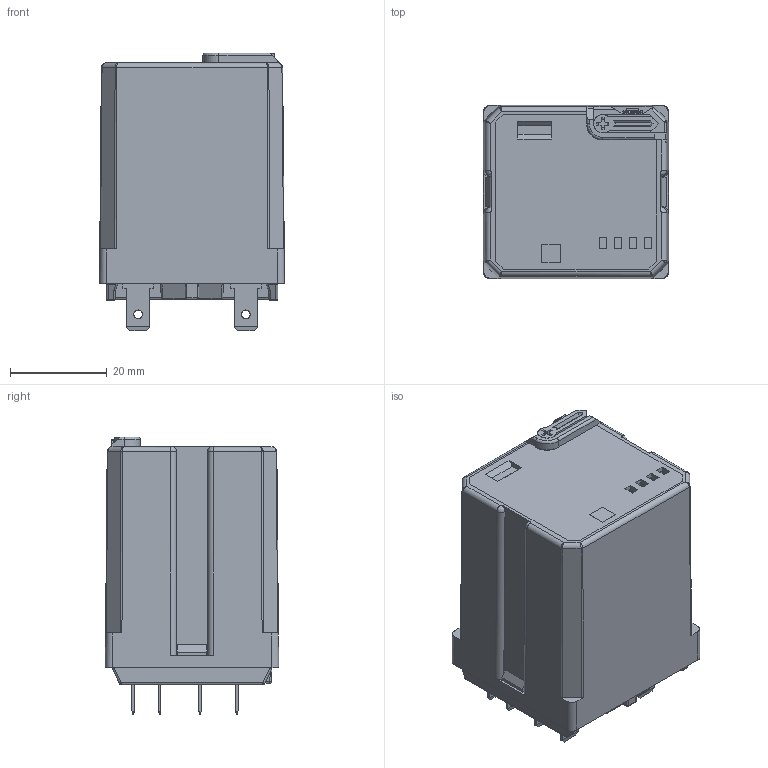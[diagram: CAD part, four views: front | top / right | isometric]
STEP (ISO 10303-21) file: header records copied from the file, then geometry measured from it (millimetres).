
FILE_DESCRIPTION(('STEP AP214'),'2;1');
FILE_NAME('6232.stp','2011-09-07T15:17:16',(''),(''),'2007.1.106','THINKDESIGN','');
FILE_SCHEMA(('AUTOMOTIVE_DESIGN'));
Length unit declared in the file: millimetre
Products named in the file (1): None
Bounding box: 38.2 x 35.8 x 57.3 mm (x, y, z)
Surface area: 11810.4 mm2 (no closed solid volume)
Topology: 0 solids, 0 shells, 540 faces, 3038 edges, 2995 vertices
Faces by surface type: plane 338, cylinder 121, bspline 81
Full cylindrical faces by diameter (mm): 1.8 x8, 2.8 x1, 5 x1
Entity records: 33657 total; most frequent: CARTESIAN_POINT 12298, DIRECTION 3532, COMPOSITE_CURVE_SEGMENT 3015, TRIMMED_CURVE 2445, VECTOR 2314, LINE 2314, AXIS2_PLACEMENT_3D 609, OUTER_BOUNDARY_CURVE 540
